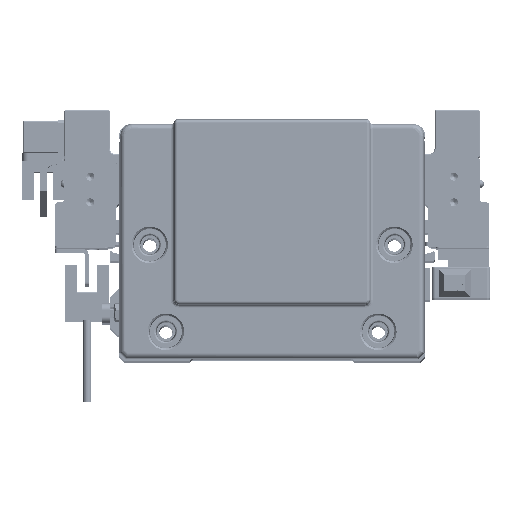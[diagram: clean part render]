
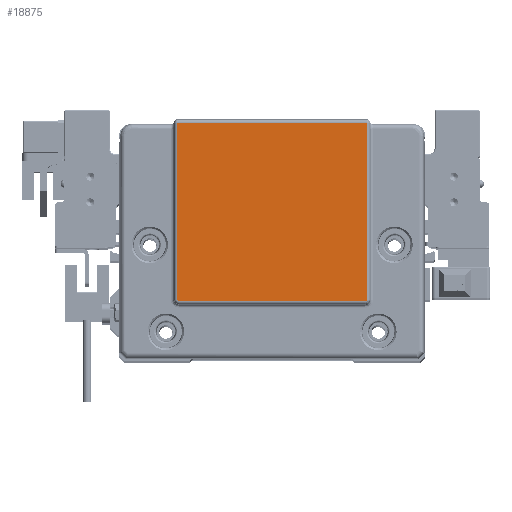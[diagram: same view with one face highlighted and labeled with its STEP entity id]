
A CAD part, top view. The second image highlights one B-rep face of the part: STEP entity #18875.
In plain terms, the highlighted planar face has unit normal (0, 0, 1) as drawn and (0, 0, -1) by its records, which use the part's own axes.
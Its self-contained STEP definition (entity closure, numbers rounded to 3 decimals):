
#1915 = CARTESIAN_POINT ( 'NONE',  ( -29.36, -18.998, -2. ) ) ;
#2569 = CARTESIAN_POINT ( 'NONE',  ( 29.069, -19.218, -2. ) ) ;
#3141 = FACE_OUTER_BOUND ( 'NONE', #48654, .T. ) ;
#5178 = EDGE_CURVE ( 'NONE', #43429, #69263, #12060, .T. ) ;
#6217 = VECTOR ( 'NONE', #72266, 1000. ) ;
#6724 = CARTESIAN_POINT ( 'NONE',  ( -29.326, -19.044, -2. ) ) ;
#7421 = CARTESIAN_POINT ( 'NONE',  ( -29.435, -18.801, -2. ) ) ;
#7425 = CARTESIAN_POINT ( 'NONE',  ( -28.935, -19.232, -2. ) ) ;
#7789 = CARTESIAN_POINT ( 'NONE',  ( -28.935, -19.232, -2. ) ) ;
#11857 = CARTESIAN_POINT ( 'NONE',  ( -29.435, -18.732, -2. ) ) ;
#12060 = LINE ( 'NONE', #45015, #46339 ) ;
#12588 = CARTESIAN_POINT ( 'NONE',  ( -29.292, -19.083, -2. ) ) ;
#14131 = CARTESIAN_POINT ( 'NONE',  ( 0., 36.185, -2. ) ) ;
#16106 = CARTESIAN_POINT ( 'NONE',  ( 29.397, -18.923, -2. ) ) ;
#16612 = LINE ( 'NONE', #66395, #6217 ) ;
#17347 = CARTESIAN_POINT ( 'NONE',  ( -29.18, -19.169, -2. ) ) ;
#18875 = ADVANCED_FACE ( 'NONE', ( #3141 ), #47828, .T. ) ;
#20130 = CARTESIAN_POINT ( 'NONE',  ( 29.283, -19.092, -2. ) ) ;
#20188 = ORIENTED_EDGE ( 'NONE', *, *, #26645, .T. ) ;
#20495 = CARTESIAN_POINT ( 'NONE',  ( 29.354, -19.006, -2. ) ) ;
#20802 = VECTOR ( 'NONE', #31659, 1000. ) ;
#21464 = CARTESIAN_POINT ( 'NONE',  ( -29.435, 0., -2. ) ) ;
#23888 = CARTESIAN_POINT ( 'NONE',  ( -29.282, -19.093, -2. ) ) ;
#24261 = CARTESIAN_POINT ( 'NONE',  ( -29.266, -19.109, -2. ) ) ;
#24568 = CARTESIAN_POINT ( 'NONE',  ( 29.391, -18.939, -2. ) ) ;
#24754 = DIRECTION ( 'NONE',  ( -1., 0., 0. ) ) ;
#26069 = CARTESIAN_POINT ( 'NONE',  ( 28.935, -19.232, -2. ) ) ;
#26645 = EDGE_CURVE ( 'NONE', #32467, #46275, #49307, .T. ) ;
#26718 = CARTESIAN_POINT ( 'NONE',  ( 29.435, -18.732, -2. ) ) ;
#30046 = CARTESIAN_POINT ( 'NONE',  ( 29.378, -18.966, -2. ) ) ;
#31119 = CARTESIAN_POINT ( 'NONE',  ( 28.935, -19.232, -2. ) ) ;
#31483 = CARTESIAN_POINT ( 'NONE',  ( 29.312, -19.063, -2. ) ) ;
#31652 = VERTEX_POINT ( 'NONE', #7425 ) ;
#31659 = DIRECTION ( 'NONE',  ( 1., 0., 0. ) ) ;
#32467 = VERTEX_POINT ( 'NONE', #53610 ) ;
#32925 = CARTESIAN_POINT ( 'NONE',  ( 29.427, -18.849, -2. ) ) ;
#33425 = EDGE_CURVE ( 'NONE', #43717, #69263, #69474, .T. ) ;
#34888 = CARTESIAN_POINT ( 'NONE',  ( -29.383, -18.956, -2. ) ) ;
#35956 = CARTESIAN_POINT ( 'NONE',  ( -28.988, -19.232, -2. ) ) ;
#36975 = CARTESIAN_POINT ( 'NONE',  ( 29.286, -19.089, -2. ) ) ;
#37336 = CARTESIAN_POINT ( 'NONE',  ( 29.247, -19.124, -2. ) ) ;
#38038 = CARTESIAN_POINT ( 'NONE',  ( 29.435, -18.785, -2. ) ) ;
#38548 = CARTESIAN_POINT ( 'NONE',  ( 29.435, -18.732, -2. ) ) ;
#39134 = CARTESIAN_POINT ( 'NONE',  ( 29.399, -18.919, -2. ) ) ;
#39295 = CARTESIAN_POINT ( 'NONE',  ( -29.151, -19.183, -2. ) ) ;
#40360 = CARTESIAN_POINT ( 'NONE',  ( -29.294, -19.08, -2. ) ) ;
#40738 = CARTESIAN_POINT ( 'NONE',  ( -29.142, -19.188, -2. ) ) ;
#40864 = EDGE_CURVE ( 'NONE', #32467, #31652, #63414, .T. ) ;
#41753 = CARTESIAN_POINT ( 'NONE',  ( 29.201, -19.157, -2. ) ) ;
#41961 = DIRECTION ( 'NONE',  ( 0., 0., -1. ) ) ;
#42677 = CARTESIAN_POINT ( 'NONE',  ( 0., 0., -2. ) ) ;
#42841 = ORIENTED_EDGE ( 'NONE', *, *, #45822, .T. ) ;
#42845 = CARTESIAN_POINT ( 'NONE',  ( 29.372, -18.977, -2. ) ) ;
#43045 = VECTOR ( 'NONE', #43812, 1000. ) ;
#43429 = VERTEX_POINT ( 'NONE', #59122 ) ;
#43717 = VERTEX_POINT ( 'NONE', #26069 ) ;
#43812 = DIRECTION ( 'NONE',  ( 0., 1., 0. ) ) ;
#45015 = CARTESIAN_POINT ( 'NONE',  ( 29.435, 0., -2. ) ) ;
#45822 = EDGE_CURVE ( 'NONE', #43717, #31652, #16612, .T. ) ;
#46240 = CARTESIAN_POINT ( 'NONE',  ( -29.226, -19.14, -2. ) ) ;
#46275 = VERTEX_POINT ( 'NONE', #71089 ) ;
#46339 = VECTOR ( 'NONE', #61474, 1000. ) ;
#47828 = PLANE ( 'NONE',  #52658 ) ;
#48320 = CARTESIAN_POINT ( 'NONE',  ( 29.158, -19.18, -2. ) ) ;
#48654 = EDGE_LOOP ( 'NONE', ( #20188, #65013, #63260, #65353, #42841, #71906 ) ) ;
#49307 = LINE ( 'NONE', #21464, #43045 ) ;
#51723 = CARTESIAN_POINT ( 'NONE',  ( -29.289, -19.086, -2. ) ) ;
#52387 = CARTESIAN_POINT ( 'NONE',  ( 29.386, -18.948, -2. ) ) ;
#52658 = AXIS2_PLACEMENT_3D ( 'NONE', #42677, #41961, #24754 ) ;
#52738 = CARTESIAN_POINT ( 'NONE',  ( 29.003, -19.232, -2. ) ) ;
#53260 = LINE ( 'NONE', #14131, #20802 ) ;
#53610 = CARTESIAN_POINT ( 'NONE',  ( -29.435, -18.732, -2. ) ) ;
#57561 = CARTESIAN_POINT ( 'NONE',  ( -29.126, -19.195, -2. ) ) ;
#57926 = CARTESIAN_POINT ( 'NONE',  ( -29.051, -19.224, -2. ) ) ;
#59122 = CARTESIAN_POINT ( 'NONE',  ( 29.435, 36.185, -2. ) ) ;
#61474 = DIRECTION ( 'NONE',  ( 0., -1., 0. ) ) ;
#61633 = CARTESIAN_POINT ( 'NONE',  ( -29.308, -19.065, -2. ) ) ;
#62001 = CARTESIAN_POINT ( 'NONE',  ( -29.133, -19.192, -2. ) ) ;
#63174 = EDGE_CURVE ( 'NONE', #46275, #43429, #53260, .T. ) ;
#63260 = ORIENTED_EDGE ( 'NONE', *, *, #5178, .T. ) ;
#63414 = B_SPLINE_CURVE_WITH_KNOTS ( 'NONE', 3,
 ( #11857, #7421, #67495, #34888, #1915, #6724, #61633, #68200, #40360, #12588, #51723, #23888, #24261, #46240, #68579, #17347, #67113, #39295, #40738, #62001, #57561, #63415, #57926, #35956, #7789 ),
 .UNSPECIFIED., .F., .F.,
 ( 4, 2, 1, 1, 1, 1, 2, 2, 2, 2, 2, 1, 2, 2, 4 ),
 ( 0., 0.25, 0.375, 0.437, 0.469, 0.484, 0.492, 0.5, 0.625, 0.687, 0.719, 0.734, 0.742, 0.75, 1. ),
 .UNSPECIFIED. ) ;
#63415 = CARTESIAN_POINT ( 'NONE',  ( -29.121, -19.196, -2. ) ) ;
#64097 = CARTESIAN_POINT ( 'NONE',  ( 29.288, -19.086, -2. ) ) ;
#64446 = CARTESIAN_POINT ( 'NONE',  ( 29.279, -19.096, -2. ) ) ;
#64793 = CARTESIAN_POINT ( 'NONE',  ( 29.296, -19.079, -2. ) ) ;
#65013 = ORIENTED_EDGE ( 'NONE', *, *, #63174, .T. ) ;
#65353 = ORIENTED_EDGE ( 'NONE', *, *, #33425, .F. ) ;
#66395 = CARTESIAN_POINT ( 'NONE',  ( 0., -19.232, -2. ) ) ;
#67113 = CARTESIAN_POINT ( 'NONE',  ( -29.169, -19.175, -2. ) ) ;
#67495 = CARTESIAN_POINT ( 'NONE',  ( -29.421, -18.866, -2. ) ) ;
#68200 = CARTESIAN_POINT ( 'NONE',  ( -29.299, -19.076, -2. ) ) ;
#68579 = CARTESIAN_POINT ( 'NONE',  ( -29.209, -19.151, -2. ) ) ;
#69218 = CARTESIAN_POINT ( 'NONE',  ( 29.395, -18.93, -2. ) ) ;
#69263 = VERTEX_POINT ( 'NONE', #38548 ) ;
#69474 = B_SPLINE_CURVE_WITH_KNOTS ( 'NONE', 3,
 ( #31119, #52738, #2569, #48320, #41753, #37336, #70303, #64446, #20130, #36975, #64097, #64793, #31483, #70656, #20495, #42845, #30046, #52387, #24568, #69218, #16106, #39134, #32925, #38038, #26718 ),
 .UNSPECIFIED., .F., .F.,
 ( 4, 2, 1, 1, 1, 1, 2, 2, 2, 2, 2, 1, 2, 2, 4 ),
 ( 0., 0.25, 0.375, 0.438, 0.469, 0.484, 0.492, 0.5, 0.625, 0.688, 0.719, 0.734, 0.742, 0.75, 1. ),
 .UNSPECIFIED. ) ;
#70303 = CARTESIAN_POINT ( 'NONE',  ( 29.268, -19.105, -2. ) ) ;
#70656 = CARTESIAN_POINT ( 'NONE',  ( 29.343, -19.023, -2. ) ) ;
#71089 = CARTESIAN_POINT ( 'NONE',  ( -29.435, 36.185, -2. ) ) ;
#71906 = ORIENTED_EDGE ( 'NONE', *, *, #40864, .F. ) ;
#72266 = DIRECTION ( 'NONE',  ( -1., 0., 0. ) ) ;
